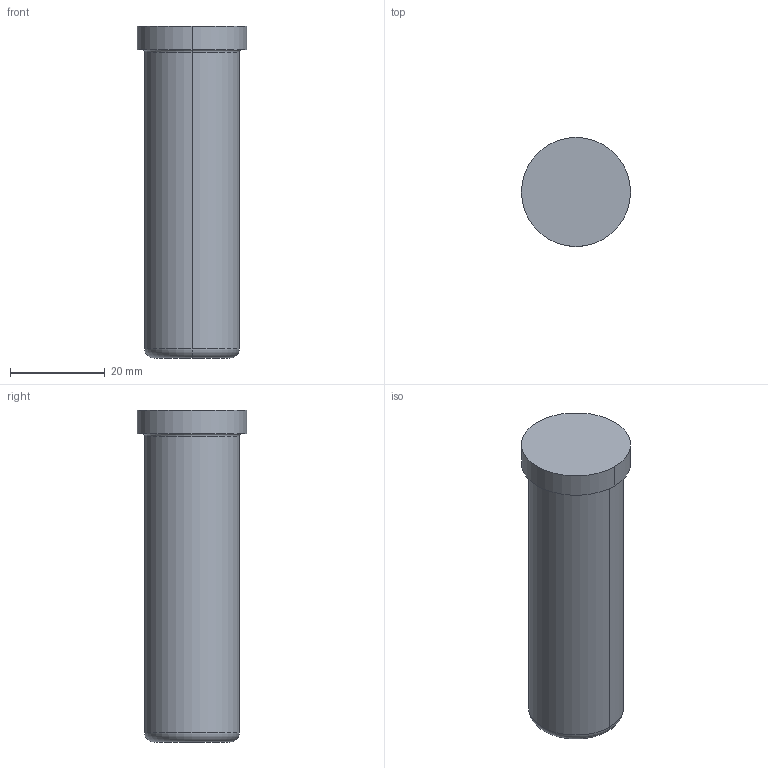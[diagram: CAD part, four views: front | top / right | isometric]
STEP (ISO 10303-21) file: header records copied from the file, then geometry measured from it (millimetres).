
FILE_DESCRIPTION(/* description */ (''),/* implementation_level */ '2;1');
FILE_NAME(/* name */ '3d_sgph20-70_00272_r00.stp',/* time_stamp */ '2011-01-10T14:11:07+09:00',/* author */ ('MISUMI'),/* organization */ (''),/* preprocessor_version */ 'ST-DEVELOPER v11',/* originating_system */ 'UGS - NX 5.0',/* authorisation */ '');
FILE_SCHEMA (('CONFIG_CONTROL_DESIGN'));
Length unit declared in the file: millimetre
Products named in the file (1): 3d_sgph20-70_00272_r00
Bounding box: 23 x 23 x 70 mm (x, y, z)
Volume: 22449.6 mm3; surface area: 5207.2 mm2
Topology: 1 solids, 1 shells, 11 faces, 20 edges, 12 vertices
Faces by surface type: cylinder 4, torus 4, plane 3
Entity records: 364 total; most frequent: DIRECTION 60, CARTESIAN_POINT 44, ORIENTED_EDGE 40, AXIS2_PLACEMENT_3D 28, EDGE_CURVE 20, CIRCLE 16, EDGE_LOOP 12, VERTEX_POINT 12
